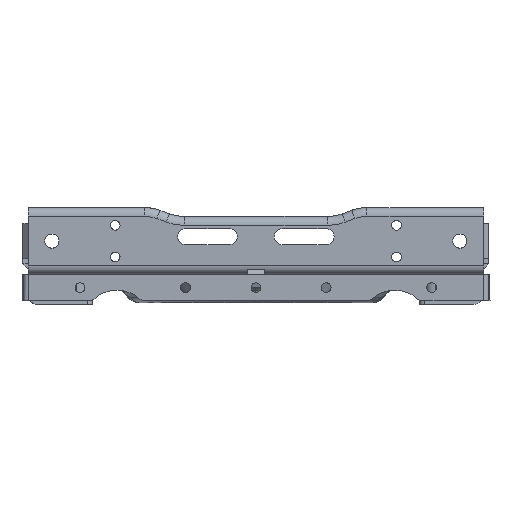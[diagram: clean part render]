
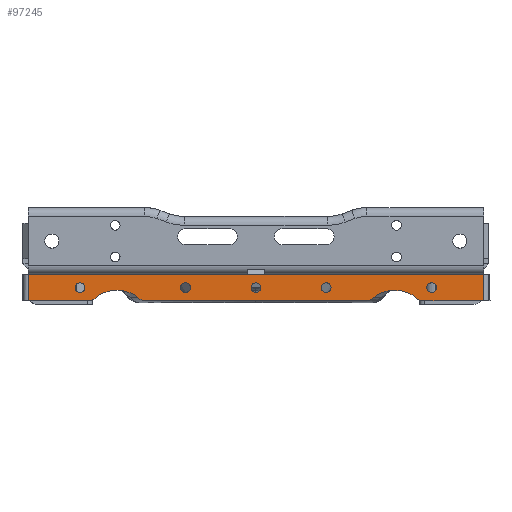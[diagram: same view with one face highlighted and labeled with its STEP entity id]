
A CAD part, left-side view. The second image highlights one B-rep face of the part: STEP entity #97245.
In plain terms, the highlighted planar face has unit normal (-1, 0, 0).
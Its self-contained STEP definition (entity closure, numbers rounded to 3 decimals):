
#96780=VECTOR('Line Direction',#96779,1.) ;
#96880=VECTOR('Line Direction',#96879,1.) ;
#96917=VECTOR('Line Direction',#96916,1.) ;
#97121=VECTOR('Line Direction',#97120,1.) ;
#97135=VECTOR('Line Direction',#97134,1.) ;
#97142=VECTOR('Line Direction',#97141,1.) ;
#96779=DIRECTION('Vector Direction',(0.,1.,0.)) ;
#96879=DIRECTION('Vector Direction',(0.,1.,0.)) ;
#96916=DIRECTION('Vector Direction',(0.,0.,1.)) ;
#97108=DIRECTION('Axis2P3D Direction',(-1.,0.,0.)) ;
#97109=DIRECTION('Axis2P3D XDirection',(0.,-1.,0.)) ;
#97113=DIRECTION('Axis2P3D Direction',(-1.,0.,0.)) ;
#97120=DIRECTION('Vector Direction',(0.,1.,0.)) ;
#97127=DIRECTION('Axis2P3D Direction',(-1.,0.,0.)) ;
#97134=DIRECTION('Vector Direction',(0.,1.,0.)) ;
#97141=DIRECTION('Vector Direction',(0.,0.,-1.)) ;
#97156=DIRECTION('Axis2P3D Direction',(-1.,0.,0.)) ;
#97165=DIRECTION('Axis2P3D Direction',(-1.,0.,0.)) ;
#97174=DIRECTION('Axis2P3D Direction',(-1.,0.,0.)) ;
#97183=DIRECTION('Axis2P3D Direction',(-1.,0.,0.)) ;
#97192=DIRECTION('Axis2P3D Direction',(-1.,0.,0.)) ;
#97201=DIRECTION('Axis2P3D Direction',(-1.,0.,0.)) ;
#97210=DIRECTION('Axis2P3D Direction',(-1.,0.,0.)) ;
#97219=DIRECTION('Axis2P3D Direction',(-1.,0.,0.)) ;
#97228=DIRECTION('Axis2P3D Direction',(-1.,0.,0.)) ;
#97237=DIRECTION('Axis2P3D Direction',(-1.,0.,0.)) ;
#96775=CARTESIAN_POINT('Vertex',(677.657,-585.011,263.316)) ;
#96778=CARTESIAN_POINT('Line Origine',(677.657,-714.511,263.316)) ;
#96782=CARTESIAN_POINT('Vertex',(677.657,-844.011,263.316)) ;
#96875=CARTESIAN_POINT('Vertex',(677.657,-621.228,248.316)) ;
#96878=CARTESIAN_POINT('Line Origine',(677.657,-603.12,248.316)) ;
#96882=CARTESIAN_POINT('Vertex',(677.657,-585.011,248.316)) ;
#96915=CARTESIAN_POINT('Line Origine',(677.657,-585.011,255.816)) ;
#97107=CARTESIAN_POINT('Axis2P3D Location',(677.657,-1429.022,0.018)) ;
#97112=CARTESIAN_POINT('Axis2P3D Location',(677.657,-635.511,234.316)) ;
#97116=CARTESIAN_POINT('Vertex',(677.657,-649.794,248.316)) ;
#97119=CARTESIAN_POINT('Line Origine',(677.657,-714.511,248.316)) ;
#97123=CARTESIAN_POINT('Vertex',(677.657,-779.228,248.316)) ;
#97126=CARTESIAN_POINT('Axis2P3D Location',(677.657,-793.511,234.316)) ;
#97130=CARTESIAN_POINT('Vertex',(677.657,-807.794,248.316)) ;
#97133=CARTESIAN_POINT('Line Origine',(677.657,-825.902,248.316)) ;
#97137=CARTESIAN_POINT('Vertex',(677.657,-844.011,248.316)) ;
#97140=CARTESIAN_POINT('Line Origine',(677.657,-844.011,255.816)) ;
#97155=CARTESIAN_POINT('Axis2P3D Location',(677.657,-674.511,255.816)) ;
#97159=CARTESIAN_POINT('Vertex',(677.657,-677.261,255.816)) ;
#97161=CARTESIAN_POINT('Vertex',(677.657,-671.761,255.816)) ;
#97164=CARTESIAN_POINT('Axis2P3D Location',(677.657,-674.511,255.816)) ;
#97173=CARTESIAN_POINT('Axis2P3D Location',(677.657,-614.511,255.816)) ;
#97177=CARTESIAN_POINT('Vertex',(677.657,-617.261,255.816)) ;
#97179=CARTESIAN_POINT('Vertex',(677.657,-611.761,255.816)) ;
#97182=CARTESIAN_POINT('Axis2P3D Location',(677.657,-614.511,255.816)) ;
#97191=CARTESIAN_POINT('Axis2P3D Location',(677.657,-754.511,255.816)) ;
#97195=CARTESIAN_POINT('Vertex',(677.657,-751.761,255.816)) ;
#97197=CARTESIAN_POINT('Vertex',(677.657,-757.261,255.816)) ;
#97200=CARTESIAN_POINT('Axis2P3D Location',(677.657,-754.511,255.816)) ;
#97209=CARTESIAN_POINT('Axis2P3D Location',(677.657,-814.511,255.816)) ;
#97213=CARTESIAN_POINT('Vertex',(677.657,-811.761,255.816)) ;
#97215=CARTESIAN_POINT('Vertex',(677.657,-817.261,255.816)) ;
#97218=CARTESIAN_POINT('Axis2P3D Location',(677.657,-814.511,255.816)) ;
#97227=CARTESIAN_POINT('Axis2P3D Location',(677.657,-714.511,255.816)) ;
#97231=CARTESIAN_POINT('Vertex',(677.657,-717.261,255.816)) ;
#97233=CARTESIAN_POINT('Vertex',(677.657,-711.761,255.816)) ;
#97236=CARTESIAN_POINT('Axis2P3D Location',(677.657,-714.511,255.816)) ;
#97110=AXIS2_PLACEMENT_3D('Plane Axis2P3D',#97107,#97108,#97109) ;
#97114=AXIS2_PLACEMENT_3D('Circle Axis2P3D',#97112,#97113,$) ;
#97128=AXIS2_PLACEMENT_3D('Circle Axis2P3D',#97126,#97127,$) ;
#97157=AXIS2_PLACEMENT_3D('Circle Axis2P3D',#97155,#97156,$) ;
#97166=AXIS2_PLACEMENT_3D('Circle Axis2P3D',#97164,#97165,$) ;
#97175=AXIS2_PLACEMENT_3D('Circle Axis2P3D',#97173,#97174,$) ;
#97184=AXIS2_PLACEMENT_3D('Circle Axis2P3D',#97182,#97183,$) ;
#97193=AXIS2_PLACEMENT_3D('Circle Axis2P3D',#97191,#97192,$) ;
#97202=AXIS2_PLACEMENT_3D('Circle Axis2P3D',#97200,#97201,$) ;
#97211=AXIS2_PLACEMENT_3D('Circle Axis2P3D',#97209,#97210,$) ;
#97220=AXIS2_PLACEMENT_3D('Circle Axis2P3D',#97218,#97219,$) ;
#97229=AXIS2_PLACEMENT_3D('Circle Axis2P3D',#97227,#97228,$) ;
#97238=AXIS2_PLACEMENT_3D('Circle Axis2P3D',#97236,#97237,$) ;
#97172=FACE_BOUND('',#97169,.T.) ;
#97190=FACE_BOUND('',#97187,.T.) ;
#97208=FACE_BOUND('',#97205,.T.) ;
#97226=FACE_BOUND('',#97223,.T.) ;
#97244=FACE_BOUND('',#97241,.T.) ;
#96784=EDGE_CURVE('',#96783,#96776,#96781,.T.) ;
#96884=EDGE_CURVE('',#96876,#96883,#96881,.T.) ;
#96919=EDGE_CURVE('',#96776,#96883,#96918,.F.) ;
#97118=EDGE_CURVE('',#97117,#96876,#97115,.T.) ;
#97125=EDGE_CURVE('',#97117,#97124,#97122,.F.) ;
#97132=EDGE_CURVE('',#97131,#97124,#97129,.T.) ;
#97139=EDGE_CURVE('',#97138,#97131,#97136,.T.) ;
#97144=EDGE_CURVE('',#96783,#97138,#97143,.T.) ;
#97163=EDGE_CURVE('',#97160,#97162,#97158,.T.) ;
#97168=EDGE_CURVE('',#97162,#97160,#97167,.T.) ;
#97181=EDGE_CURVE('',#97178,#97180,#97176,.T.) ;
#97186=EDGE_CURVE('',#97180,#97178,#97185,.T.) ;
#97199=EDGE_CURVE('',#97196,#97198,#97194,.T.) ;
#97204=EDGE_CURVE('',#97198,#97196,#97203,.T.) ;
#97217=EDGE_CURVE('',#97214,#97216,#97212,.T.) ;
#97222=EDGE_CURVE('',#97216,#97214,#97221,.T.) ;
#97235=EDGE_CURVE('',#97232,#97234,#97230,.T.) ;
#97240=EDGE_CURVE('',#97234,#97232,#97239,.T.) ;
#97111=PLANE('Plane',#97110) ;
#97146=ORIENTED_EDGE('',*,*,#96884,.F.) ;
#97147=ORIENTED_EDGE('',*,*,#97118,.F.) ;
#97148=ORIENTED_EDGE('',*,*,#97125,.T.) ;
#97149=ORIENTED_EDGE('',*,*,#97132,.F.) ;
#97150=ORIENTED_EDGE('',*,*,#97139,.F.) ;
#97151=ORIENTED_EDGE('',*,*,#97144,.F.) ;
#97152=ORIENTED_EDGE('',*,*,#96784,.T.) ;
#97153=ORIENTED_EDGE('',*,*,#96919,.T.) ;
#97170=ORIENTED_EDGE('',*,*,#97163,.F.) ;
#97171=ORIENTED_EDGE('',*,*,#97168,.F.) ;
#97188=ORIENTED_EDGE('',*,*,#97181,.F.) ;
#97189=ORIENTED_EDGE('',*,*,#97186,.F.) ;
#97206=ORIENTED_EDGE('',*,*,#97199,.F.) ;
#97207=ORIENTED_EDGE('',*,*,#97204,.F.) ;
#97224=ORIENTED_EDGE('',*,*,#97217,.F.) ;
#97225=ORIENTED_EDGE('',*,*,#97222,.F.) ;
#97242=ORIENTED_EDGE('',*,*,#97235,.F.) ;
#97243=ORIENTED_EDGE('',*,*,#97240,.F.) ;
#96781=LINE('Line',#96778,#96780) ;
#96881=LINE('Line',#96878,#96880) ;
#96918=LINE('Line',#96915,#96917) ;
#97122=LINE('Line',#97119,#97121) ;
#97136=LINE('Line',#97133,#97135) ;
#97143=LINE('Line',#97140,#97142) ;
#97245=ADVANCED_FACE('SHT0012259.1\\\X2\96325C187F69524D652F67B6\X0\.1\\\X2\96F64EF651E04F554F53\X0\',(#97154,#97172,#97190,#97208,#97226,#97244),#97111,.T.) ;
#97115=CIRCLE('generated circle',#97114,20.) ;
#97129=CIRCLE('generated circle',#97128,20.) ;
#97158=CIRCLE('generated circle',#97157,2.75) ;
#97167=CIRCLE('generated circle',#97166,2.75) ;
#97176=CIRCLE('generated circle',#97175,2.75) ;
#97185=CIRCLE('generated circle',#97184,2.75) ;
#97194=CIRCLE('generated circle',#97193,2.75) ;
#97203=CIRCLE('generated circle',#97202,2.75) ;
#97212=CIRCLE('generated circle',#97211,2.75) ;
#97221=CIRCLE('generated circle',#97220,2.75) ;
#97230=CIRCLE('generated circle',#97229,2.75) ;
#97239=CIRCLE('generated circle',#97238,2.75) ;
#96776=VERTEX_POINT('',#96775) ;
#96783=VERTEX_POINT('',#96782) ;
#96876=VERTEX_POINT('',#96875) ;
#96883=VERTEX_POINT('',#96882) ;
#97117=VERTEX_POINT('',#97116) ;
#97124=VERTEX_POINT('',#97123) ;
#97131=VERTEX_POINT('',#97130) ;
#97138=VERTEX_POINT('',#97137) ;
#97160=VERTEX_POINT('',#97159) ;
#97162=VERTEX_POINT('',#97161) ;
#97178=VERTEX_POINT('',#97177) ;
#97180=VERTEX_POINT('',#97179) ;
#97196=VERTEX_POINT('',#97195) ;
#97198=VERTEX_POINT('',#97197) ;
#97214=VERTEX_POINT('',#97213) ;
#97216=VERTEX_POINT('',#97215) ;
#97232=VERTEX_POINT('',#97231) ;
#97234=VERTEX_POINT('',#97233) ;
#97145=EDGE_LOOP('',(#97146,#97147,#97148,#97149,#97150,#97151,#97152,#97153)) ;
#97169=EDGE_LOOP('',(#97170,#97171)) ;
#97187=EDGE_LOOP('',(#97188,#97189)) ;
#97205=EDGE_LOOP('',(#97206,#97207)) ;
#97223=EDGE_LOOP('',(#97224,#97225)) ;
#97241=EDGE_LOOP('',(#97242,#97243)) ;
#97154=FACE_OUTER_BOUND('',#97145,.T.) ;
